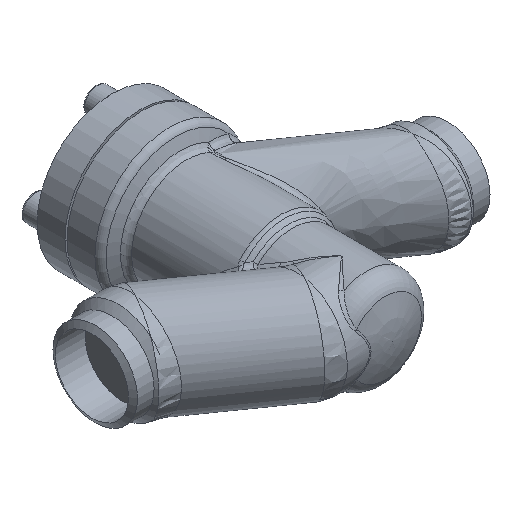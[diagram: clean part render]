
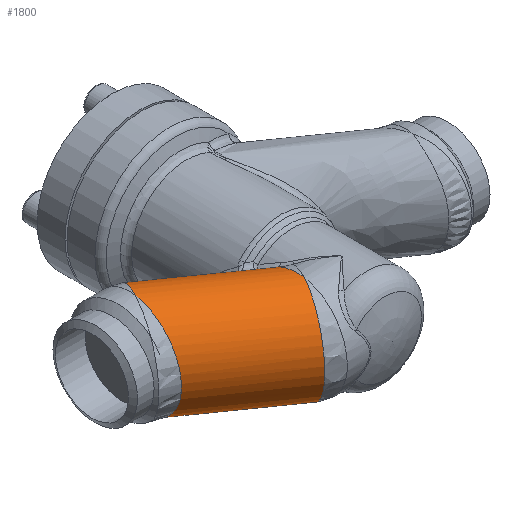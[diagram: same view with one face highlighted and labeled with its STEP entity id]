
A CAD part, isometric view. The second image highlights one B-rep face of the part: STEP entity #1800.
In plain terms, the highlighted cylindrical face has radius 24.5 mm (diameter 49 mm), a full revolution.
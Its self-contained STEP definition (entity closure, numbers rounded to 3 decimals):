
#862=CARTESIAN_POINT('',(-68.5,-55.,24.5));
#863=VERTEX_POINT('',#862);
#871=CARTESIAN_POINT('',(-68.5,-55.,-24.5));
#872=VERTEX_POINT('',#871);
#1003=CARTESIAN_POINT('',(-20.68,-67.307,17.301));
#1004=VERTEX_POINT('',#1003);
#1062=CARTESIAN_POINT('',(-20.68,-67.307,-17.301));
#1063=VERTEX_POINT('',#1062);
#1274=CARTESIAN_POINT('',(-16.358,-74.756,20.295));
#1275=VERTEX_POINT('',#1274);
#1276=CARTESIAN_POINT('',(-20.68,-67.307,17.301));
#1277=CARTESIAN_POINT('',(-19.275,-69.729,18.482));
#1278=CARTESIAN_POINT('',(-17.831,-72.218,19.46));
#1279=CARTESIAN_POINT('',(-16.358,-74.756,20.295));
#1280=B_SPLINE_CURVE_WITH_KNOTS('',3,(#1276,#1277,#1278,#1279),.UNSPECIFIED.,.F.,.U.,(4,4),(22.672,23.613),.UNSPECIFIED.);
#1281=EDGE_CURVE('',#1004,#1275,#1280,.T.);
#1338=CARTESIAN_POINT('',(-25.096,-63.769,16.926));
#1339=VERTEX_POINT('',#1338);
#1351=CARTESIAN_POINT('',(-25.096,-63.769,16.926));
#1352=CARTESIAN_POINT('',(-23.644,-64.967,17.082));
#1353=CARTESIAN_POINT('',(-22.177,-66.147,17.209));
#1354=CARTESIAN_POINT('',(-20.68,-67.307,17.301));
#1355=B_SPLINE_CURVE_WITH_KNOTS('',3,(#1351,#1352,#1353,#1354),.UNSPECIFIED.,.F.,.U.,(4,4),(-15.736,-15.169),.UNSPECIFIED.);
#1356=EDGE_CURVE('',#1339,#1004,#1355,.T.);
#1585=CARTESIAN_POINT('',(-25.096,-63.769,-16.926));
#1586=VERTEX_POINT('',#1585);
#1647=CARTESIAN_POINT('',(-20.68,-67.307,-17.301));
#1648=CARTESIAN_POINT('',(-22.177,-66.147,-17.209));
#1649=CARTESIAN_POINT('',(-23.644,-64.967,-17.082));
#1650=CARTESIAN_POINT('',(-25.096,-63.769,-16.926));
#1651=B_SPLINE_CURVE_WITH_KNOTS('',3,(#1647,#1648,#1649,#1650),.UNSPECIFIED.,.F.,.U.,(4,4),(-27.22,-26.653),.UNSPECIFIED.);
#1652=EDGE_CURVE('',#1063,#1586,#1651,.T.);
#1719=CARTESIAN_POINT('',(-68.5,-55.,0.0));
#1720=DIRECTION('',(-0.99,0.14,0.));
#1721=DIRECTION('',(-0.14,-0.99,0.0));
#1722=AXIS2_PLACEMENT_3D('',#1719,#1720,#1721);
#1723=ELLIPSE('',#1722,27.484,24.5);
#1724=EDGE_CURVE('',#872,#863,#1723,.T.);
#1732=CARTESIAN_POINT('',(-68.5,-55.,0.0));
#1733=DIRECTION('',(0.819,-0.574,0.0));
#1734=DIRECTION('',(-0.574,-0.819,0.0));
#1735=AXIS2_PLACEMENT_3D('',#1732,#1733,#1734);
#1736=CYLINDRICAL_SURFACE('',#1735,24.5);
#1737=CARTESIAN_POINT('',(-18.515,-90.,-24.5));
#1738=VERTEX_POINT('',#1737);
#1739=CARTESIAN_POINT('',(-16.358,-74.756,-20.295));
#1740=VERTEX_POINT('',#1739);
#1741=CARTESIAN_POINT('',(-18.515,-90.,0.0));
#1742=DIRECTION('',(0.99,-0.14,0.));
#1743=DIRECTION('',(0.14,0.99,0.0));
#1744=AXIS2_PLACEMENT_3D('',#1741,#1742,#1743);
#1745=ELLIPSE('',#1744,27.484,24.5);
#1746=EDGE_CURVE('',#1738,#1740,#1745,.T.);
#1747=ORIENTED_EDGE('',*,*,#1746,.F.);
#1748=CARTESIAN_POINT('',(-18.515,-90.,24.5));
#1749=VERTEX_POINT('',#1748);
#1750=CARTESIAN_POINT('',(-18.515,-90.,0.0));
#1751=DIRECTION('',(0.883,-0.47,0.));
#1752=DIRECTION('',(-0.47,-0.883,0.0));
#1753=AXIS2_PLACEMENT_3D('',#1750,#1751,#1752);
#1754=ELLIPSE('',#1753,24.682,24.5);
#1755=EDGE_CURVE('',#1749,#1738,#1754,.T.);
#1756=ORIENTED_EDGE('',*,*,#1755,.F.);
#1757=CARTESIAN_POINT('',(-18.515,-90.,0.0));
#1758=DIRECTION('',(0.99,-0.14,0.));
#1759=DIRECTION('',(0.14,0.99,0.0));
#1760=AXIS2_PLACEMENT_3D('',#1757,#1758,#1759);
#1761=ELLIPSE('',#1760,27.484,24.5);
#1762=EDGE_CURVE('',#1275,#1749,#1761,.T.);
#1763=ORIENTED_EDGE('',*,*,#1762,.F.);
#1764=ORIENTED_EDGE('',*,*,#1281,.F.);
#1765=ORIENTED_EDGE('',*,*,#1356,.F.);
#1766=CARTESIAN_POINT('',(-25.096,-63.769,-16.926));
#1767=CARTESIAN_POINT('',(-26.073,-61.899,-15.91));
#1768=CARTESIAN_POINT('',(-27.99,-58.283,-13.608));
#1769=CARTESIAN_POINT('',(-30.514,-53.612,-9.202));
#1770=CARTESIAN_POINT('',(-31.976,-50.933,-4.348));
#1771=CARTESIAN_POINT('',(-32.295,-50.35,0.02));
#1772=CARTESIAN_POINT('',(-31.966,-50.952,4.393));
#1773=CARTESIAN_POINT('',(-30.509,-53.62,9.213));
#1774=CARTESIAN_POINT('',(-27.974,-58.314,13.631));
#1775=CARTESIAN_POINT('',(-26.071,-61.902,15.912));
#1776=CARTESIAN_POINT('',(-25.096,-63.769,16.926));
#1777=B_SPLINE_CURVE_WITH_KNOTS('',3,(#1766,#1767,#1768,#1769,#1770,#1771,#1772,#1773,#1774,#1775,#1776),.UNSPECIFIED.,.F.,.U.,(4,1,1,1,1,1,1,1,4),(18.338,19.069,19.8,20.531,20.896,21.262,21.993,22.724,23.455),.UNSPECIFIED.);
#1778=EDGE_CURVE('',#1586,#1339,#1777,.T.);
#1779=ORIENTED_EDGE('',*,*,#1778,.F.);
#1780=ORIENTED_EDGE('',*,*,#1652,.F.);
#1781=CARTESIAN_POINT('',(-16.358,-74.756,-20.295));
#1782=CARTESIAN_POINT('',(-17.829,-72.221,-19.461));
#1783=CARTESIAN_POINT('',(-19.273,-69.731,-18.483));
#1784=CARTESIAN_POINT('',(-20.68,-67.307,-17.301));
#1785=B_SPLINE_CURVE_WITH_KNOTS('',3,(#1781,#1782,#1783,#1784),.UNSPECIFIED.,.F.,.U.,(4,4),(22.555,23.497),.UNSPECIFIED.);
#1786=EDGE_CURVE('',#1740,#1063,#1785,.T.);
#1787=ORIENTED_EDGE('',*,*,#1786,.F.);
#1788=EDGE_LOOP('',(#1747,#1756,#1763,#1764,#1765,#1779,#1780,#1787));
#1789=FACE_OUTER_BOUND('',#1788,.T.);
#1790=ORIENTED_EDGE('',*,*,#1724,.F.);
#1791=CARTESIAN_POINT('',(-68.5,-55.,0.0));
#1792=DIRECTION('',(-0.883,0.47,0.0));
#1793=DIRECTION('',(0.47,0.883,0.0));
#1794=AXIS2_PLACEMENT_3D('',#1791,#1792,#1793);
#1795=ELLIPSE('',#1794,24.682,24.5);
#1796=EDGE_CURVE('',#863,#872,#1795,.T.);
#1797=ORIENTED_EDGE('',*,*,#1796,.F.);
#1798=EDGE_LOOP('',(#1790,#1797));
#1799=FACE_BOUND('',#1798,.T.);
#1800=ADVANCED_FACE('',(#1789,#1799),#1736,.T.);
